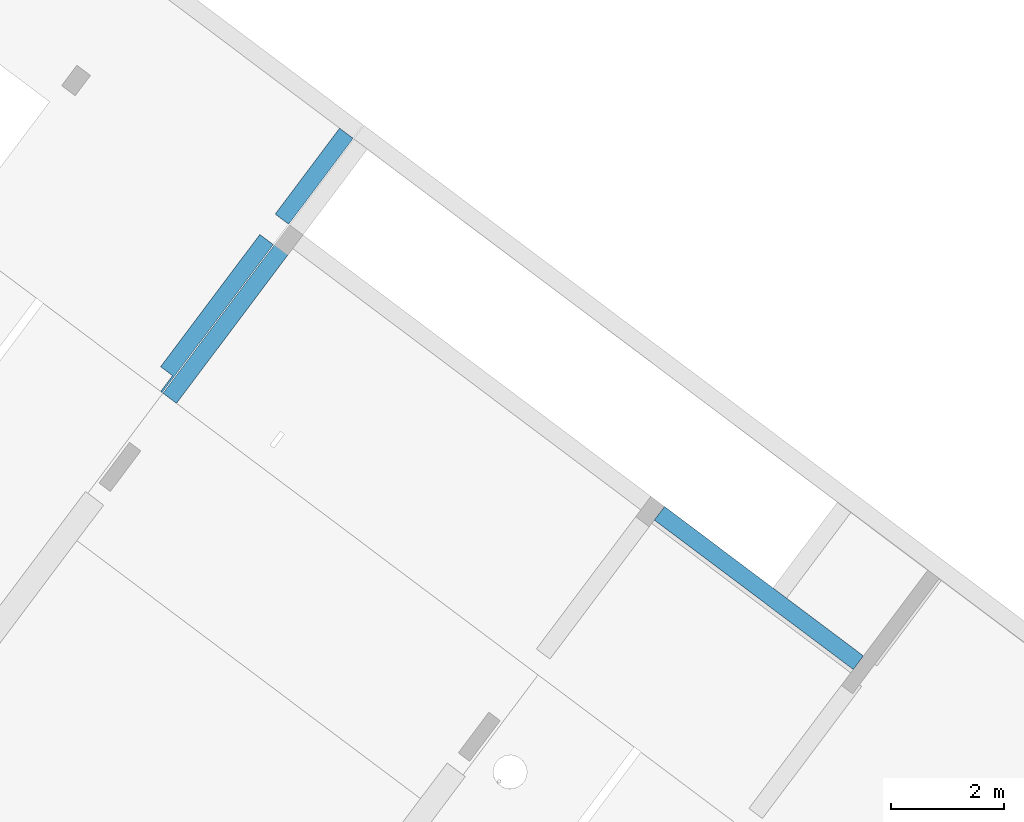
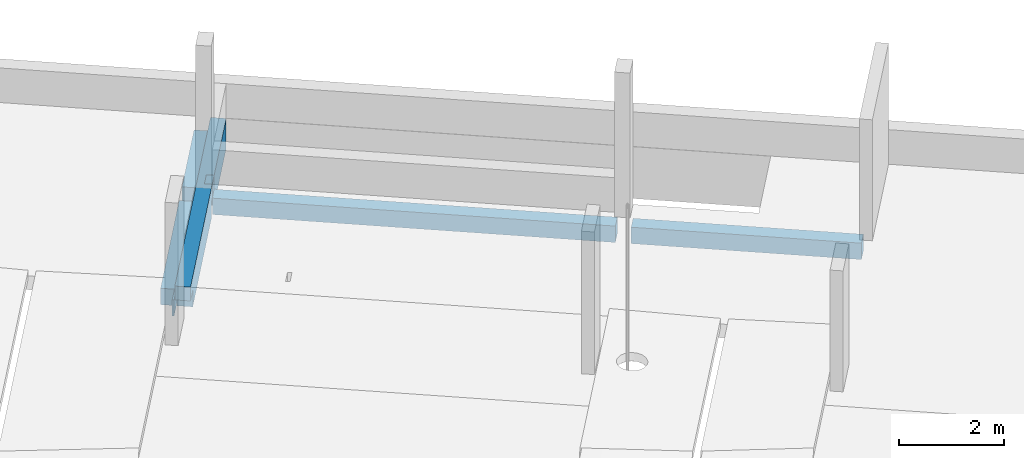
# One storey, part 23 of 24: 3 beams.
"""IFC2X3 building model written with IfcOpenShell, lengths in metres."""

from ifc_helpers import new_model, entity, si_unit, converted_unit, derived_unit, direction, frame, origin, place, context, subcontext, project, spatial, faceted_brep, source, transform, mapped, material, type_object, type_shapes, element, save


model = new_model("IFC2X3")

# Units and contexts
model_context = context("Model", 3, precision=1e-05, world=origin(), true_north=direction((6.123031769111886e-17, 1.0)))
body_context = subcontext(model_context, "Body", "Model", "MODEL_VIEW")
ifc_project = project(units=[si_unit("LENGTHUNIT", "METRE"), si_unit("AREAUNIT", "SQUARE_METRE"), si_unit("VOLUMEUNIT", "CUBIC_METRE"), converted_unit("PLANEANGLEUNIT", "DEGREE", entity("IfcRatioMeasure", 0.017453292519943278), si_unit("PLANEANGLEUNIT", "RADIAN"), dimensions=[0, 0, 0, 0, 0, 0, 0]), si_unit("MASSUNIT", "GRAM", prefix="KILO"), derived_unit("MASSDENSITYUNIT", [(si_unit("MASSUNIT", "GRAM", prefix="KILO"), 1), (si_unit("LENGTHUNIT", "METRE"), -3)]), derived_unit("IONCONCENTRATIONUNIT", [(si_unit("MASSUNIT", "GRAM", prefix="KILO"), 1), (si_unit("LENGTHUNIT", "METRE"), -3)]), derived_unit("MOMENTOFINERTIAUNIT", [(si_unit("LENGTHUNIT", "METRE"), 4)]), si_unit("TIMEUNIT", "SECOND"), si_unit("FREQUENCYUNIT", "HERTZ"), si_unit("THERMODYNAMICTEMPERATUREUNIT", "DEGREE_CELSIUS"), derived_unit("THERMALTRANSMITTANCEUNIT", [(si_unit("MASSUNIT", "GRAM", prefix="KILO"), 1), (si_unit("THERMODYNAMICTEMPERATUREUNIT", "KELVIN"), -1), (si_unit("TIMEUNIT", "SECOND"), -3)]), derived_unit("THERMALCONDUCTANCEUNIT", [(si_unit("MASSUNIT", "GRAM", prefix="KILO"), 1), (si_unit("THERMODYNAMICTEMPERATUREUNIT", "KELVIN"), -1), (si_unit("TIMEUNIT", "SECOND"), -3), (si_unit("LENGTHUNIT", "METRE"), 1)]), derived_unit("VOLUMETRICFLOWRATEUNIT", [(si_unit("LENGTHUNIT", "METRE"), 3), (si_unit("TIMEUNIT", "SECOND"), -1)]), derived_unit("MASSFLOWRATEUNIT", [(si_unit("MASSUNIT", "GRAM", prefix="KILO"), 1), (si_unit("TIMEUNIT", "SECOND"), -1)]), derived_unit("ROTATIONALFREQUENCYUNIT", [(si_unit("TIMEUNIT", "SECOND"), -1)]), si_unit("ELECTRICCURRENTUNIT", "AMPERE"), si_unit("ELECTRICVOLTAGEUNIT", "VOLT"), si_unit("POWERUNIT", "WATT"), si_unit("FORCEUNIT", "NEWTON", prefix="KILO"), si_unit("ILLUMINANCEUNIT", "LUX"), si_unit("LUMINOUSFLUXUNIT", "LUMEN"), si_unit("LUMINOUSINTENSITYUNIT", "CANDELA"), derived_unit("USERDEFINED", [(si_unit("MASSUNIT", "GRAM", prefix="KILO"), -1), (si_unit("LENGTHUNIT", "METRE"), -2), (si_unit("TIMEUNIT", "SECOND"), 3), (si_unit("LUMINOUSFLUXUNIT", "LUMEN"), 1)]), derived_unit("USERDEFINED", [(si_unit("MASSUNIT", "GRAM", prefix="KILO"), 1), (si_unit("TIMEUNIT", "SECOND"), -3), (si_unit("LENGTHUNIT", "METRE"), 3), (si_unit("ELECTRICCURRENTUNIT", "AMPERE"), -2)]), derived_unit("SOUNDPOWERUNIT", [(si_unit("MASSUNIT", "GRAM", prefix="KILO"), 1), (si_unit("TIMEUNIT", "SECOND"), -3), (si_unit("LENGTHUNIT", "METRE"), 2)]), derived_unit("SOUNDPRESSUREUNIT", [(si_unit("MASSUNIT", "GRAM", prefix="KILO"), 1), (si_unit("LENGTHUNIT", "METRE"), -1), (si_unit("TIMEUNIT", "SECOND"), -2)]), derived_unit("LINEARVELOCITYUNIT", [(si_unit("LENGTHUNIT", "METRE"), 1), (si_unit("TIMEUNIT", "SECOND"), -1)]), si_unit("PRESSUREUNIT", "PASCAL"), derived_unit("USERDEFINED", [(si_unit("MASSUNIT", "GRAM", prefix="KILO"), 1), (si_unit("LENGTHUNIT", "METRE"), -2), (si_unit("TIMEUNIT", "SECOND"), -2)]), derived_unit("LINEARFORCEUNIT", [(si_unit("MASSUNIT", "GRAM", prefix="KILO"), 1), (si_unit("TIMEUNIT", "SECOND"), -2)]), derived_unit("PLANARFORCEUNIT", [(si_unit("MASSUNIT", "GRAM", prefix="KILO"), 1), (si_unit("LENGTHUNIT", "METRE"), -1), (si_unit("TIMEUNIT", "SECOND"), -2)]), derived_unit("SPECIFICHEATCAPACITYUNIT", [(si_unit("THERMODYNAMICTEMPERATUREUNIT", "KELVIN"), -1), (si_unit("LENGTHUNIT", "METRE"), 2), (si_unit("TIMEUNIT", "SECOND"), -2)]), derived_unit("HEATINGVALUEUNIT", [(si_unit("LENGTHUNIT", "METRE"), 2), (si_unit("TIMEUNIT", "SECOND"), -2)]), derived_unit("VAPORPERMEABILITYUNIT", [(si_unit("LENGTHUNIT", "METRE"), -1), (si_unit("TIMEUNIT", "SECOND"), 1)]), derived_unit("DYNAMICVISCOSITYUNIT", [(si_unit("MASSUNIT", "GRAM", prefix="KILO"), 1), (si_unit("TIMEUNIT", "SECOND"), -1), (si_unit("LENGTHUNIT", "METRE"), -1)]), derived_unit("THERMALEXPANSIONCOEFFICIENTUNIT", [(si_unit("THERMODYNAMICTEMPERATUREUNIT", "KELVIN"), -1)]), derived_unit("MODULUSOFELASTICITYUNIT", [(si_unit("MASSUNIT", "GRAM", prefix="KILO"), 1), (si_unit("LENGTHUNIT", "METRE"), -1), (si_unit("TIMEUNIT", "SECOND"), -2)]), derived_unit("ISOTHERMALMOISTURECAPACITYUNIT", [(si_unit("LENGTHUNIT", "METRE"), 3), (si_unit("MASSUNIT", "GRAM", prefix="KILO"), -1)]), derived_unit("MOISTUREDIFFUSIVITYUNIT", [(si_unit("TIMEUNIT", "SECOND"), -1), (si_unit("LENGTHUNIT", "METRE"), 2)])], contexts=[model_context])

# Site, building, storey
site_placement = place(None, origin())
site = spatial("IfcSite", under=ifc_project, at=site_placement, Name="Default", CompositionType="ELEMENT")
building_placement = place(site_placement, frame((0.0, 0.0, 235.0), z_axis=(0.0, 0.0, 1.0), x_axis=(-0.7996477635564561, 0.6004693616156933, 0.0)))
building = spatial("IfcBuilding", under=site, at=building_placement, CompositionType="ELEMENT")
storey_placement = place(building_placement, origin())
storey = spatial("IfcBuildingStorey", under=building, at=storey_placement, Name="P0- Escola", CompositionType="ELEMENT", Elevation=0.0)

# Beams
ifc_material = material(Name="_Formigó- T1- STR")
beam_type_1 = type_object("IfcBeamType", Name="STR- V- Formigó- Rectangular- T1:30x70 cm", PredefinedType="BEAM", material=ifc_material)
beam_1_placement = place(storey_placement, frame((36.34514768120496, -42.034191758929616, -0.9000000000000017), z_axis=(0.0, 0.0, 1.0), x_axis=(0.0, -1.0, 0.0)))
element("IfcBeam", 1, at=beam_1_placement, inside=storey, type_object=beam_type_1, material=ifc_material, Name="STR- V- Formigó- Rectangular- T1:30x70 cm", ObjectType="STR- V- Formigó- Rectangular- T1:30x70 cm", context=body_context, shape_type="Brep", body=[
    faceted_brep([(-5.61900000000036, 0.30000000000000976, 0.6999999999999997), (-5.61900000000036, 0.0, 0.7000000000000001), (-2.3440000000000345, 0.0, 0.7000000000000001), (-2.1940000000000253, 0.0, 0.6999999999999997), (-2.1940000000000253, 0.15000000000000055, 0.6999999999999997), (-1.8940000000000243, 0.15000000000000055, 0.6999999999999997), (-1.8940000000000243, 0.0, 0.7000000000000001), (0.0, 0.0, 0.6999999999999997), (0.0, 0.30000000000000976, 0.6999999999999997), (-1.894000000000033, 0.30000000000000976, 0.6999999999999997), (-2.3440000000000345, 0.30000000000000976, 0.6999999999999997), (-1.8940000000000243, 0.0, 0.38000000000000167), (-1.8940000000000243, 0.0, 0.0), (0.0, 0.0, 0.0), (-1.894000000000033, 0.30000000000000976, 0.0), (0.0, 0.30000000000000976, 0.0), (-1.894000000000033, 0.30000000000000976, 0.3800000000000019), (-2.3440000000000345, 0.30000000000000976, 0.3800000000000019), (-2.3440000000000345, 0.30000000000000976, 0.0), (-5.269000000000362, 0.30000000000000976, 0.0), (-5.269000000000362, 0.30000000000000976, 0.3800000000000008), (-5.61900000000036, 0.30000000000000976, 0.3800000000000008), (-5.61900000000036, 0.0, 0.3800000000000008), (-1.8940000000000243, 0.14999999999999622, 0.3800000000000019), (-2.1940000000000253, 0.0, 0.3800000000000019), (-2.1940000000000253, 0.15000000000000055, 0.3800000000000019), (-5.269000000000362, 0.0, 0.38000000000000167), (-5.269000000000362, 0.0, 0.0), (-2.3440000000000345, 0.0, 0.0), (-2.3440000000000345, 0.0, 0.3800000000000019)], [[[0, 1, 2, 3, 4, 5, 6, 7, 8, 9, 10]], [[6, 11, 12, 13, 7]], [[12, 14, 15, 13]], [[14, 16, 17, 18, 19, 20, 21, 0, 10, 9, 8, 15]], [[1, 0, 21, 22]], [[16, 14, 12, 11, 6, 5, 23]], [[24, 25, 4, 3]], [[25, 23, 5, 4]], [[24, 3, 2, 1, 22, 26, 27, 28, 29]], [[17, 29, 28, 18]], [[18, 28, 27, 19]], [[29, 17, 16, 23, 25, 24]], [[26, 20, 19, 27]], [[20, 26, 22, 21]], [[8, 7, 13, 15]]]),
])
beam_type_2 = type_object("IfcBeamType", Name="STR- V- Formigó- Rectangular- T1:30x70 cm", PredefinedType="BEAM", material=ifc_material)
shared_shape_1 = source(origin(), body_context, "Body", "Brep", [
    faceted_brep([(12.550000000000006, 0.0, 0.6999999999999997), (12.550000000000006, 0.3000000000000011, 0.6999999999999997), (12.400000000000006, 0.3000000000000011, 0.6999999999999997), (12.400000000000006, 0.0, 0.7000000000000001), (12.400000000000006, 0.0, 0.3800000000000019), (12.550000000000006, 0.0, 0.3800000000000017), (12.400000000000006, 0.3000000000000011, 0.0), (12.400000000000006, 0.0, 0.0), (4.7000000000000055, 0.0, 0.0), (4.7000000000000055, 0.3000000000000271, 0.0), (12.400000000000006, 0.3000000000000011, 0.38000000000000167), (12.550000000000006, 0.3000000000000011, 0.3800000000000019), (4.7000000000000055, 0.0, 0.38000000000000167), (4.7000000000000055, 0.3000000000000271, 0.38000000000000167)], [[[0, 1, 2, 3]], [[3, 4, 5, 0]], [[6, 7, 8, 9]], [[10, 2, 1, 11]], [[1, 0, 5, 11]], [[10, 4, 7, 6]], [[4, 10, 11, 5]], [[9, 8, 12, 13]], [[10, 4, 3, 2]], [[4, 10, 13, 12]], [[7, 4, 12, 8]], [[10, 6, 9, 13]]]),
    faceted_brep([(0.0, 0.0, 0.38000000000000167), (1.7000000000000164, 0.0, 0.38000000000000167), (2.0, 0.0, 0.38000000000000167), (4.400000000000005, 0.0, 0.38000000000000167), (4.400000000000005, 0.3000000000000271, 0.38000000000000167), (0.0, 0.3000000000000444, 0.38000000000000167), (0.0, 0.0, 0.0), (0.0, 0.3000000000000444, 0.0), (4.400000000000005, 0.0, 0.0), (4.400000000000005, 0.3000000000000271, 0.0), (2.0, 0.0, 0.0), (1.700000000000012, 0.0, 0.0)], [[[0, 1, 2, 3, 4, 5]], [[6, 0, 5, 7]], [[8, 9, 4, 3]], [[6, 7, 9, 8, 10, 11]], [[2, 1, 0, 6, 11, 10, 8, 3]], [[7, 5, 4, 9]]]),
])
type_shapes(beam_type_2, [shared_shape_1])
beam_2_placement = place(storey_placement, frame((23.94514768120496, -40.14019175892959, -0.9000000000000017)))
element("IfcBeam", 2, at=beam_2_placement, inside=storey, type_object=beam_type_2, material=ifc_material, Name="STR- V- Formigó- Rectangular- T1:30x70 cm", ObjectType="STR- V- Formigó- Rectangular- T1:30x70 cm", context=body_context, shape_type="MappedRepresentation", body=[
    mapped(shared_shape_1, transform((0.0, 0.0, 0.0), scale=1.0)),
])
beam_type_3 = type_object("IfcBeamType", Name="STR- V- Formigó- Rectangular- T1:30x70 cm", PredefinedType="BEAM", material=ifc_material)
shared_shape_2 = source(origin(), body_context, "Body", "Brep", [
    faceted_brep([(0.0, 1.899999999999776, 0.3800000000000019), (0.0, 1.899999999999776, 0.0), (0.0, 0.0, 0.0), (0.0, 0.0, 0.38000000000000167), (0.3000000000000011, 1.899999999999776, 0.0), (0.3000000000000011, 1.899999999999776, 0.38000000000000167), (0.3000000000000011, 0.0, 0.38000000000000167), (0.3000000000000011, 0.0, 0.0)], [[[0, 1, 2, 3]], [[4, 5, 6, 7]], [[1, 0, 5, 4]], [[1, 4, 7, 2]], [[6, 5, 0, 3]], [[3, 2, 7, 6]]]),
    faceted_brep([(0.3000000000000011, 2.3499999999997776, 0.0), (0.0, 2.3499999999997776, 0.0), (0.0, 5.625000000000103, 0.0), (0.03518748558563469, 5.625000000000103, 0.0), (0.03518748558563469, 5.275000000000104, 0.0), (0.3000000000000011, 5.275000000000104, 0.0), (0.0, 2.3499999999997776, 0.3800000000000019), (0.3000000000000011, 2.3499999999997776, 0.38000000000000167), (0.0, 5.625000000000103, 0.3800000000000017), (0.3000000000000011, 5.275000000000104, 0.38000000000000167), (0.03518748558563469, 5.275000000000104, 0.38000000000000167), (0.03518748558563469, 5.625000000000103, 0.3800000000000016)], [[[0, 1, 2, 3, 4, 5]], [[6, 1, 0, 7]], [[8, 6, 7, 9, 10, 11]], [[1, 6, 8, 2]], [[7, 0, 5, 9]], [[2, 8, 11, 3]], [[4, 10, 9, 5]], [[10, 4, 3, 11]]]),
])
type_shapes(beam_type_3, [shared_shape_2])
beam_3_placement = place(storey_placement, frame((36.65996019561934, -42.04019175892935, -0.9000000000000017)))
element("IfcBeam", 3, at=beam_3_placement, inside=storey, type_object=beam_type_3, material=ifc_material, Name="STR- V- Formigó- Rectangular- T1:30x70 cm", ObjectType="STR- V- Formigó- Rectangular- T1:30x70 cm", context=body_context, shape_type="MappedRepresentation", body=[
    mapped(shared_shape_2, transform((0.0, 0.0, 0.0), scale=1.0)),
])

save(model, "model.ifc")
